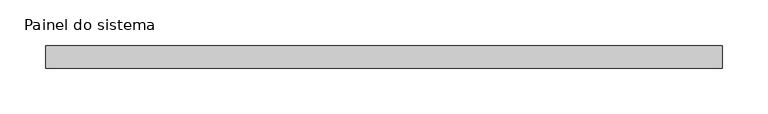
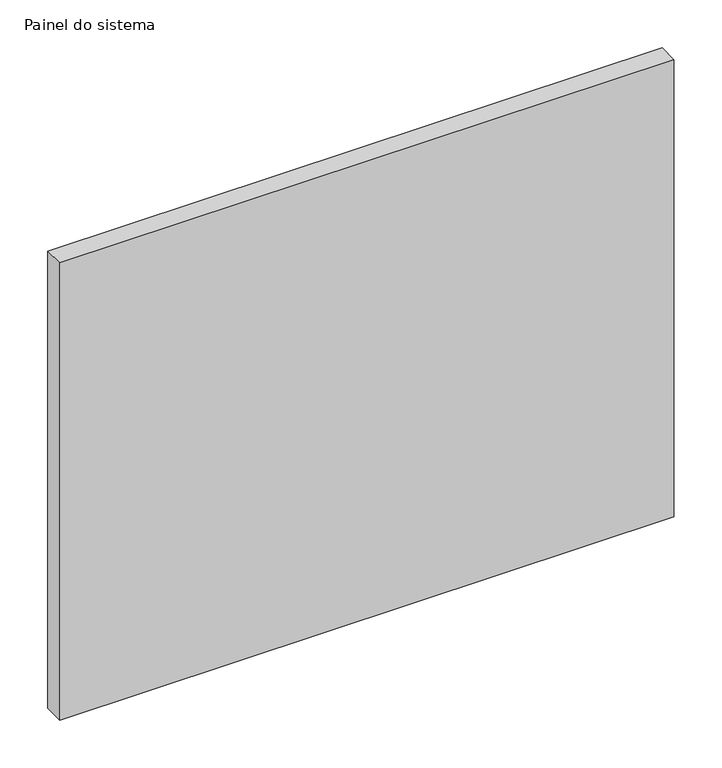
"""IFC4 building model written with IfcOpenShell, lengths in millimetres: plate geometry, Painel do sistema : Envidraçado."""

from ifc_helpers import new_model, si_unit, origin, origin_with_axes, place, context, project, spatial, polyline, outline, extrude, source, transform, mapped, element, save


def painel_do_sistema_b2d8f2dd(model_context):
    return source(origin(), model_context, "Body", "SweptSolid", [
        extrude(outline(polyline([(371.6666667, 24.5), (-371.6666667, 24.5), (-371.6666667, 49.5), (371.6666667, 49.5), (371.6666667, 24.5)])), origin_with_axes(), (0.0, 0.0, 1.0), 585.0),
    ])


if __name__ == "__main__":
    model = new_model("IFC4")
    model_context = context("Model", 3, world=origin())
    ifc_project = project(units=[si_unit("LENGTHUNIT", "METRE", prefix="MILLI")], contexts=[model_context])
    site = spatial("IfcSite", under=ifc_project)
    building = spatial("IfcBuilding", under=site)
    placement = place(None, origin())
    painel_do_sistema_shape = painel_do_sistema_b2d8f2dd(model_context)
    element("IfcPlate", 1, ObjectType="Painel do sistema : Envidraçado", at=placement, inside=building, context=model_context, shape_type="MappedRepresentation", body=[
        mapped(painel_do_sistema_shape, transform((0.0, 0.0, 0.0), x_axis=(1.0, 0.0, 0.0), y_axis=(0.0, 1.0, 0.0), z_axis=(0.0, 0.0, 1.0))),
    ])
    save(model, "model.ifc")
